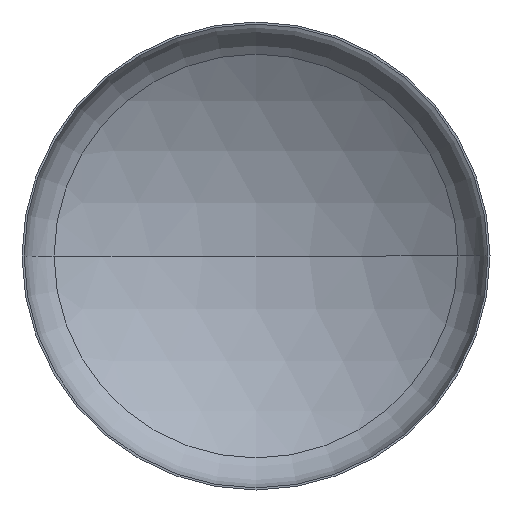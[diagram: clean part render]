
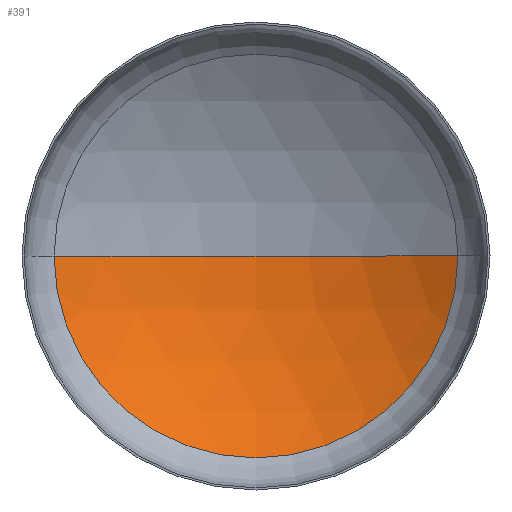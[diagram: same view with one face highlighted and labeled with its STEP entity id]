
A CAD part, front view. The second image highlights one B-rep face of the part: STEP entity #391.
In plain terms, the highlighted spherical face has radius 712 mm.
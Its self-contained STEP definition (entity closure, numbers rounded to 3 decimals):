
#7 = DIRECTION ( 'NONE',  ( 0., 0., 1. ) ) ;
#8 = AXIS2_PLACEMENT_3D ( 'NONE', #294, #206, #60 ) ;
#32 = ORIENTED_EDGE ( 'NONE', *, *, #77, .T. ) ;
#40 = AXIS2_PLACEMENT_3D ( 'NONE', #55, #335, #321 ) ;
#42 = CARTESIAN_POINT ( 'NONE',  ( 0., 115.828, 0. ) ) ;
#55 = CARTESIAN_POINT ( 'NONE',  ( 0., -481., 0. ) ) ;
#60 = DIRECTION ( 'NONE',  ( -1., 0., 0. ) ) ;
#65 = CARTESIAN_POINT ( 'NONE',  ( 0., -481., 0. ) ) ;
#72 = DIRECTION ( 'NONE',  ( 0., 1., 0. ) ) ;
#77 = EDGE_CURVE ( 'NONE', #403, #164, #142, .T. ) ;
#78 = FACE_OUTER_BOUND ( 'NONE', #86, .T. ) ;
#86 = EDGE_LOOP ( 'NONE', ( #336, #32, #273 ) ) ;
#87 = CARTESIAN_POINT ( 'NONE',  ( 388.253, 115.828, 0. ) ) ;
#119 = AXIS2_PLACEMENT_3D ( 'NONE', #65, #7, #132 ) ;
#130 = AXIS2_PLACEMENT_3D ( 'NONE', #42, #72, #255 ) ;
#132 = DIRECTION ( 'NONE',  ( 1., 0., 0. ) ) ;
#142 = CIRCLE ( 'NONE', #119, 712. ) ;
#144 = CARTESIAN_POINT ( 'NONE',  ( -388.253, 115.828, 0. ) ) ;
#164 = VERTEX_POINT ( 'NONE', #230 ) ;
#173 = EDGE_CURVE ( 'NONE', #403, #358, #368, .T. ) ;
#206 = DIRECTION ( 'NONE',  ( 0., 0., 1. ) ) ;
#230 = CARTESIAN_POINT ( 'NONE',  ( 0., 231., 0. ) ) ;
#254 = EDGE_CURVE ( 'NONE', #358, #164, #284, .T. ) ;
#255 = DIRECTION ( 'NONE',  ( -1., 0., 0. ) ) ;
#273 = ORIENTED_EDGE ( 'NONE', *, *, #254, .F. ) ;
#284 = CIRCLE ( 'NONE', #40, 712. ) ;
#294 = CARTESIAN_POINT ( 'NONE',  ( 0., -481., 0. ) ) ;
#321 = DIRECTION ( 'NONE',  ( -1., 0., 0. ) ) ;
#335 = DIRECTION ( 'NONE',  ( 0., 0., -1. ) ) ;
#336 = ORIENTED_EDGE ( 'NONE', *, *, #173, .F. ) ;
#358 = VERTEX_POINT ( 'NONE', #144 ) ;
#368 = CIRCLE ( 'NONE', #130, 388.253 ) ;
#391 = ADVANCED_FACE ( 'NONE', ( #78 ), #402, .F. ) ;
#402 = SPHERICAL_SURFACE ( 'NONE', #8, 712. ) ;
#403 = VERTEX_POINT ( 'NONE', #87 ) ;
